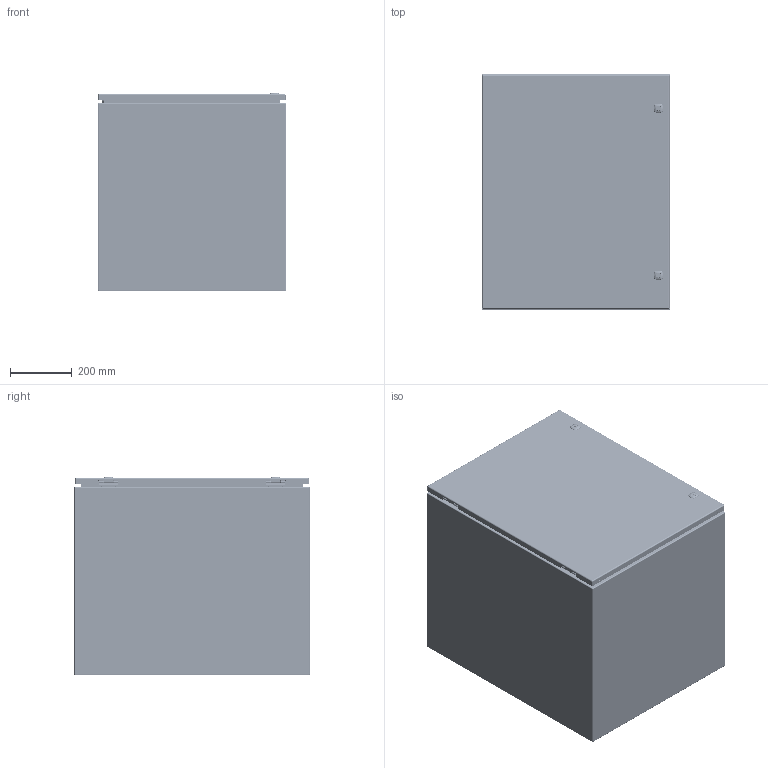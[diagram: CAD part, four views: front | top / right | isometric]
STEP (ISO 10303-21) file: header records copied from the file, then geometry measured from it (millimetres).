
FILE_DESCRIPTION(/* description */ ('5412ES 30" x 24" x 24" Assembly'),/* implementation_level */ '2;1');
FILE_NAME(/* name */ 'C:\Vault_Workspace\Inventor_Dwg\BoxCad\Result\5412ESB302424\e-mail\3D\5412ESB302424.stp',/* time_stamp */ '2022-03-17T18:35:18-04:00',/* author */ ('BoxCad'),/* organization */ (''),/* preprocessor_version */ 'ST-DEVELOPER v18.1',/* originating_system */ 'Autodesk Inventor 2020',/* authorisation */ '');
FILE_SCHEMA (('AUTOMOTIVE_DESIGN { 1 0 10303 214 3 1 1 }'));
Products named in the file (44): 5412ESB302424; 5412ESB302424B; 5412ESB302424B-P; STK-Q-16005; STUD_M6 x 16mm; STK-Q-07610; 881SP3024G; 881SP3024G-P; STK-Q-07310; 5412ESB302424C; 5412ESB302424C-P; 5412ESB302424G; STK-K-09800; STK-K-09800-2; STK-Q-33014; STK-Q-90398; STK-Q-40095; STK-Q-63410; STK-Q-16055; STK-Q-46020-30; STK-Q-07220-1; STK-Q-07220-2; STK-Q-07220-3; STK-Q-07220-4; STK-Q-07220-A; STK-Q-07220-B; STK-P-03820R; STK-S-00100; STK-A-880SCQ4-SL-1; STK-A-880SCQ4-SL-2; STK-Q-78110; STK-Q-78120; STK-Q-78145; STK-Q-03200; STK-Q-78125; STK-Q-78141; STK-Q-90390; STK-Q-78160; STK-Q-04050-07; STK-Q-04050-07-2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
Assembly tree (81 placements, depth 4):
  5412ESB302424
    5412ESB302424B
      5412ESB302424B-P
      STK-Q-16005  x4
      STK-P-03820R
      STUD_M6 x 16mm
    STK-Q-07610  x4
    881SP3024G
      881SP3024G-P
    STK-Q-07310  x4
    5412ESB302424C
      5412ESB302424C-P
      5412ESB302424G
      STK-K-09800
        STK-Q-33014
        STK-Q-90398
        STK-Q-40095  x2
        STK-Q-63410  x2
      STK-K-09800-2
        STK-Q-33014
        STK-Q-90398
        STK-Q-40095  x2
        STK-Q-63410  x2
      STK-Q-16055  x4
      STK-Q-46020-30  x2
      STK-Q-07220-1
        STK-Q-07220-A
        STK-Q-07220-B
      STK-Q-07220-2
        STK-Q-07220-A
        STK-Q-07220-B
      STK-Q-07220-3
        STK-Q-07220-A
        STK-Q-07220-B
      STK-Q-07220-4
        STK-Q-07220-A
        STK-Q-07220-B
      STK-P-03820R
      STK-S-00100
      STK-A-880SCQ4-SL-1
        STK-Q-78110
        STK-Q-78120
        STK-Q-78145
        STK-Q-03200
        STK-Q-78125
        STK-Q-78141
        STK-Q-90390
        STK-Q-78160
      STK-A-880SCQ4-SL-2
        STK-Q-78110
        STK-Q-78120
        STK-Q-78145
        STK-Q-03200
        STK-Q-78125
        STK-Q-78141
        STK-Q-90390
        STK-Q-78160
    STK-Q-04050-07
      STK-Q-04050-07-P
      STK-Q-04050-N
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Bounding box: 610.05 x 762 x 642.75 mm (x, y, z)
Volume: 5947890.3 mm3; surface area: 6634985.5 mm2
Topology: 64 solids, 64 shells, 9708 faces, 26044 edges, 16545 vertices
Faces by surface type: bspline 3404, plane 2773, cylinder 2516, torus 655, sphere 184, cone 176
Full cylindrical faces by diameter (mm): 0 x1, 0.75 x9, 0.762 x9, 1 x8, 1.1 x8, 3.2 x4, 4.191 x52, 4.5 x4, 4.521 x8, 4.75 x2, 4.85 x16, 4.95 x4, 5 x4, 5.1 x36, 5.156 x4, 5.6 x2, 5.9 x29, 6.015 x52, 6.65 x4, 6.8 x4, 6.85 x16, 7.112 x4, 7.3 x2, 7.366 x4, 7.9 x4, 8 x12, 8.382 x2, 9.5 x4, 9.6 x2, 9.906 x4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
Entity records: 155879 total; most frequent: CARTESIAN_POINT 64127, ORIENTED_EDGE 20974, DIRECTION 15301, EDGE_CURVE 10487, VERTEX_POINT 6647, AXIS2_PLACEMENT_3D 5620, EDGE_LOOP 4286, LINE 4061
